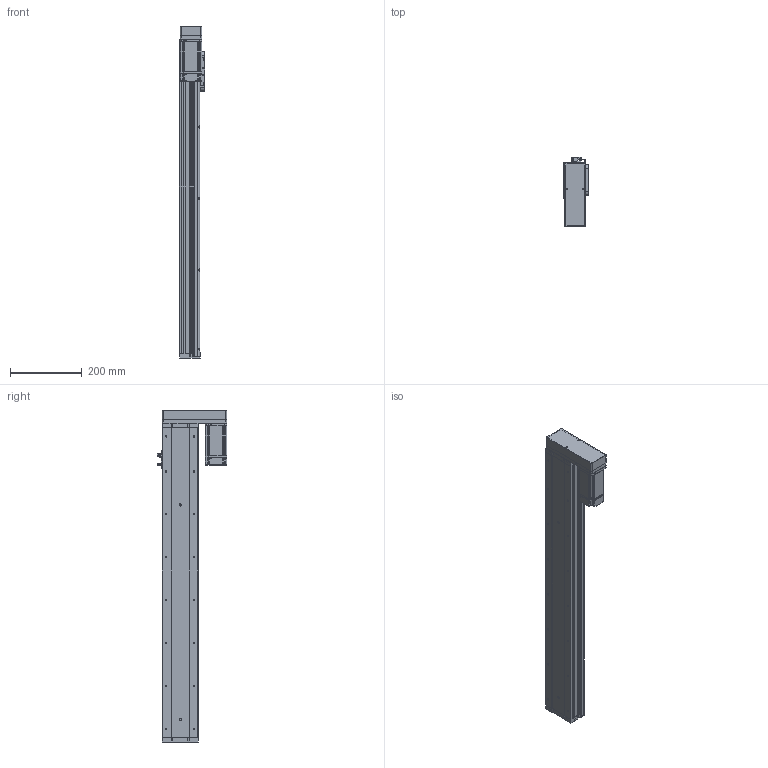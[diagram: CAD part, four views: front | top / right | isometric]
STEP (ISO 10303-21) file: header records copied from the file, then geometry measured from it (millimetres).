
FILE_DESCRIPTION (( 'STEP AP214' ), '1' );
FILE_NAME ('KSD100S-S700-MR-CR.STEP', '2019-09-03T01:22:46', ( '微软用户' ), ( '微软中国' ), 'SwSTEP 2.0', 'SolidWorks 2014', '' );
FILE_SCHEMA (( 'AUTOMOTIVE_DESIGN' ));
Length unit declared in the file: millimetre
Products named in the file (14): 100宽滚珠螺姆安装板1; 100遵裔啣揤啣; 100遵裔啣700俴最; 100遵耜啣700俴最佪裝; 100宽底板全封闭700行程丝杆; KSD100S-S700-MR-CR; MHMD042G1CA_2_03; U倰嫖萇EEㄜSX672; 悵誘欶酘衵殏; 100宽马达安装板连板左右折丝杆; 感应片100宽全封闭; 100宽马达安装板全封闭; 100宽端板全封闭; 100宽滚珠螺姆安装板1防护罩
Assembly tree (16 placements, depth 2):
  KSD100S-S700-MR-CR
    100宽底板全封闭700行程丝杆
    100遵耜啣700俴最佪裝  x2
    100遵裔啣700俴最
    100遵裔啣揤啣  x2
    100宽滚珠螺姆安装板1
    100宽滚珠螺姆安装板1防护罩
    100宽端板全封闭
    100宽马达安装板全封闭
    感应片100宽全封闭
    100宽马达安装板连板左右折丝杆
    悵誘欶酘衵殏
    U倰嫖萇EEㄜSX672  x2
    MHMD042G1CA_2_03
Bounding box: 70 x 193.7 x 928.5 mm (x, y, z)
Volume: 1893763 mm3; surface area: 856113.6 mm2
Topology: 15 solids, 16 shells, 1577 faces, 4396 edges, 2792 vertices
Faces by surface type: cylinder 693, plane 629, cone 237, bspline 18
Entity records: 56108 total; most frequent: CARTESIAN_POINT 8815, DIRECTION 8001, ORIENTED_EDGE 7396, EDGE_CURVE 3770, AXIS2_PLACEMENT_3D 2866, VERTEX_POINT 2498, VECTOR 2269, LINE 2269
